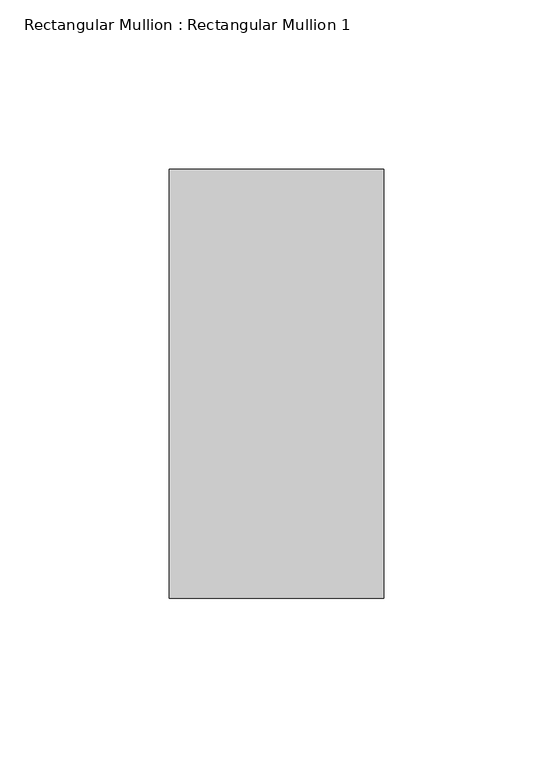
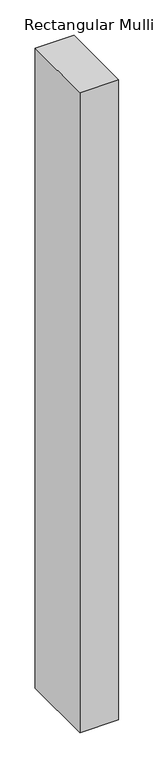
"""IFC4 building model written with IfcOpenShell, lengths in millimetres: member geometry, Rectangular Mullion : Rectangular Mullion 1."""

from ifc_helpers import new_model, si_unit, frame, origin, place, context, project, spatial, polyline, outline, extrude, source, transform, mapped, element, save


def rectangular_mullion_rectangular_mullion_1_a8fdea6a(model_context):
    return source(origin(), model_context, "Body", "SweptSolid", [
        extrude(outline(polyline([(31.75, 63.5), (31.75, -63.5), (-31.75, -63.5), (-31.75, 63.5), (31.75, 63.5)])), frame((0.0, 0.0, -1108.098184), z_axis=(0.0, 0.0, 1.0), x_axis=(1.0, 0.0, 0.0)), (0.0, 0.0, 1.0), 1108.098184),
    ])


if __name__ == "__main__":
    model = new_model("IFC4")
    model_context = context("Model", 3, world=origin())
    ifc_project = project(units=[si_unit("LENGTHUNIT", "METRE", prefix="MILLI")], contexts=[model_context])
    site = spatial("IfcSite", under=ifc_project)
    building = spatial("IfcBuilding", under=site)
    placement = place(None, origin())
    rectangular_mullion_rectangular_mullion_1_shape = rectangular_mullion_rectangular_mullion_1_a8fdea6a(model_context)
    element("IfcMember", 1, ObjectType="Rectangular Mullion : Rectangular Mullion 1", at=placement, inside=building, context=model_context, shape_type="MappedRepresentation", body=[
        mapped(rectangular_mullion_rectangular_mullion_1_shape, transform((0.0, 0.0, 0.0), x_axis=(1.0, 0.0, 0.0), y_axis=(0.0, 1.0, 0.0), z_axis=(0.0, 0.0, 1.0))),
    ])
    save(model, "model.ifc")
